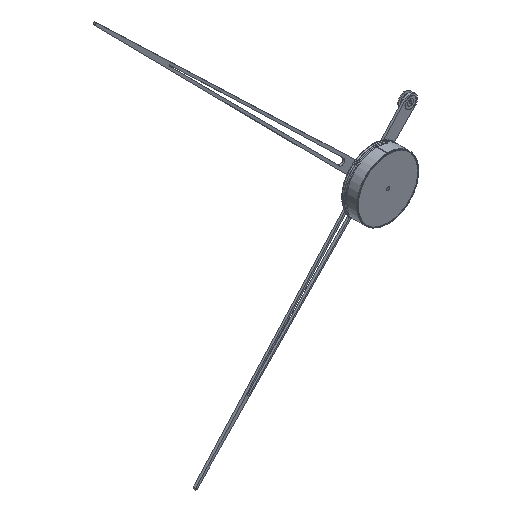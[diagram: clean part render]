
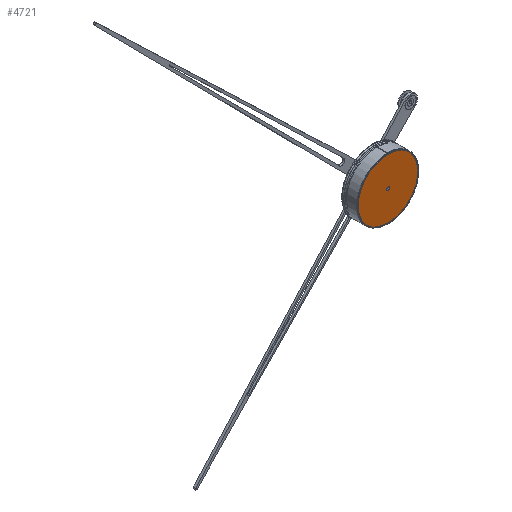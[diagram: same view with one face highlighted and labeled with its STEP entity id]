
A CAD part, isometric view. The second image highlights one B-rep face of the part: STEP entity #4721.
In plain terms, the highlighted planar face has unit normal (0, -1, 0).
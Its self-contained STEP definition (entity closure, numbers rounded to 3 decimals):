
#31 = CIRCLE ( 'NONE', #2213, 42.3 ) ;
#129 = FACE_OUTER_BOUND ( 'NONE', #981, .T. ) ;
#367 = DIRECTION ( 'NONE',  ( 0., 1., 0. ) ) ;
#422 = ORIENTED_EDGE ( 'NONE', *, *, #5982, .T. ) ;
#436 = DIRECTION ( 'NONE',  ( 0., -1., 0. ) ) ;
#482 = CARTESIAN_POINT ( 'NONE',  ( 43.3, -19.5, 0. ) ) ;
#703 = DIRECTION ( 'NONE',  ( 0., 1., 0. ) ) ;
#981 = EDGE_LOOP ( 'NONE', ( #2997, #5360 ) ) ;
#987 = DIRECTION ( 'NONE',  ( 0., -1., 0. ) ) ;
#1142 = EDGE_CURVE ( 'NONE', #1852, #5030, #11380, .T. ) ;
#1852 = VERTEX_POINT ( 'NONE', #5338 ) ;
#2025 = DIRECTION ( 'NONE',  ( 0., 0., -1. ) ) ;
#2213 = AXIS2_PLACEMENT_3D ( 'NONE', #482, #436, #13400 ) ;
#2257 = AXIS2_PLACEMENT_3D ( 'NONE', #13507, #703, #8143 ) ;
#2272 = EDGE_CURVE ( 'NONE', #10542, #13498, #4548, .T. ) ;
#2735 = DIRECTION ( 'NONE',  ( 0., 1., 0. ) ) ;
#2997 = ORIENTED_EDGE ( 'NONE', *, *, #2272, .T. ) ;
#4547 = DIRECTION ( 'NONE',  ( 0., 0., 1. ) ) ;
#4548 = CIRCLE ( 'NONE', #11547, 42.3 ) ;
#4592 = CARTESIAN_POINT ( 'NONE',  ( 1., -19.5, 0. ) ) ;
#4721 = ADVANCED_FACE ( 'NONE', ( #7651, #129 ), #6570, .F. ) ;
#5030 = VERTEX_POINT ( 'NONE', #12403 ) ;
#5338 = CARTESIAN_POINT ( 'NONE',  ( 43.3, -19.5, -2. ) ) ;
#5360 = ORIENTED_EDGE ( 'NONE', *, *, #7586, .T. ) ;
#5615 = AXIS2_PLACEMENT_3D ( 'NONE', #7095, #2735, #6911 ) ;
#5982 = EDGE_CURVE ( 'NONE', #5030, #1852, #12350, .T. ) ;
#6570 = PLANE ( 'NONE',  #13852 ) ;
#6911 = DIRECTION ( 'NONE',  ( 0., 0., 1. ) ) ;
#7095 = CARTESIAN_POINT ( 'NONE',  ( 43.3, -19.5, 0. ) ) ;
#7446 = CARTESIAN_POINT ( 'NONE',  ( 43.3, -19.5, 0. ) ) ;
#7586 = EDGE_CURVE ( 'NONE', #13498, #10542, #31, .T. ) ;
#7651 = FACE_BOUND ( 'NONE', #12193, .T. ) ;
#8143 = DIRECTION ( 'NONE',  ( 0., 0., 1. ) ) ;
#8651 = CARTESIAN_POINT ( 'NONE',  ( 43.3, -19.5, 42.3 ) ) ;
#9584 = CARTESIAN_POINT ( 'NONE',  ( 43.3, -19.5, -42.3 ) ) ;
#10542 = VERTEX_POINT ( 'NONE', #9584 ) ;
#11380 = CIRCLE ( 'NONE', #2257, 2. ) ;
#11547 = AXIS2_PLACEMENT_3D ( 'NONE', #7446, #987, #2025 ) ;
#12193 = EDGE_LOOP ( 'NONE', ( #422, #13869 ) ) ;
#12350 = CIRCLE ( 'NONE', #5615, 2. ) ;
#12403 = CARTESIAN_POINT ( 'NONE',  ( 43.3, -19.5, 2. ) ) ;
#13400 = DIRECTION ( 'NONE',  ( 0., 0., -1. ) ) ;
#13498 = VERTEX_POINT ( 'NONE', #8651 ) ;
#13507 = CARTESIAN_POINT ( 'NONE',  ( 43.3, -19.5, 0. ) ) ;
#13852 = AXIS2_PLACEMENT_3D ( 'NONE', #4592, #367, #4547 ) ;
#13869 = ORIENTED_EDGE ( 'NONE', *, *, #1142, .T. ) ;
